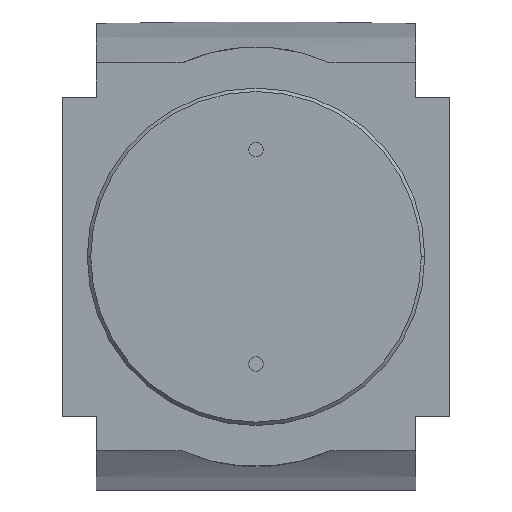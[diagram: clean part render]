
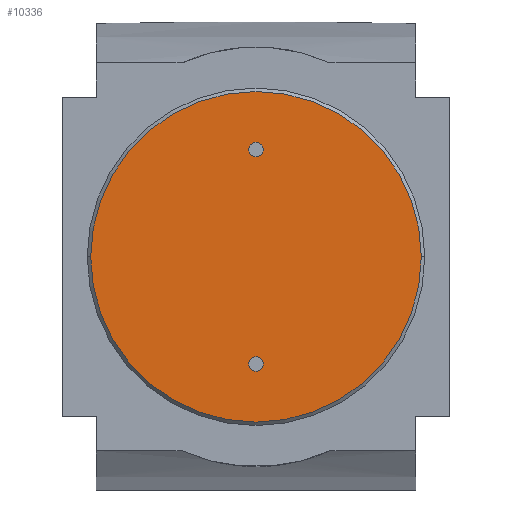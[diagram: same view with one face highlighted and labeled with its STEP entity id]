
A CAD part, front view. The second image highlights one B-rep face of the part: STEP entity #10336.
In plain terms, the highlighted planar face has unit normal (0, -1, 0).
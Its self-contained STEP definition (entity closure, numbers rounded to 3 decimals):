
#3662=CARTESIAN_POINT('',(0.,-54.,0.));
#3663=DIRECTION('',(0.,-1.,0.));
#3664=DIRECTION('',(-1.,0.,0.));
#3665=AXIS2_PLACEMENT_3D('',#3662,#3663,#3664);
#3670=CARTESIAN_POINT('',(0.,-54.,0.));
#3671=DIRECTION('',(0.,1.,0.));
#3672=DIRECTION('',(-1.,0.,0.));
#3673=AXIS2_PLACEMENT_3D('',#3670,#3671,#3672);
#3678=CARTESIAN_POINT('',(0.,-54.,23.5));
#3679=DIRECTION('',(0.,-1.,0.));
#3680=DIRECTION('',(0.,0.,-1.));
#3681=AXIS2_PLACEMENT_3D('',#3678,#3679,#3680);
#3686=CARTESIAN_POINT('',(0.,-54.,23.5));
#3687=DIRECTION('',(0.,-1.,0.));
#3688=DIRECTION('',(0.,0.,1.));
#3689=AXIS2_PLACEMENT_3D('',#3686,#3687,#3688);
#3694=CARTESIAN_POINT('',(0.,-54.,-23.5));
#3695=DIRECTION('',(0.,-1.,0.));
#3696=DIRECTION('',(0.,0.,-1.));
#3697=AXIS2_PLACEMENT_3D('',#3694,#3695,#3696);
#3702=CARTESIAN_POINT('',(0.,-54.,-23.5));
#3703=DIRECTION('',(0.,-1.,0.));
#3704=DIRECTION('',(0.,0.,1.));
#3705=AXIS2_PLACEMENT_3D('',#3702,#3703,#3704);
#5329=CARTESIAN_POINT('',(0.,-54.,21.9));
#5330=CARTESIAN_POINT('',(0.,-54.,25.1));
#5331=VERTEX_POINT('',#5329);
#5332=VERTEX_POINT('',#5330);
#5333=CARTESIAN_POINT('',(0.,-54.,-25.1));
#5334=CARTESIAN_POINT('',(0.,-54.,-21.9));
#5335=VERTEX_POINT('',#5333);
#5336=VERTEX_POINT('',#5334);
#5481=CARTESIAN_POINT('',(-36.25,-54.,0.));
#5482=VERTEX_POINT('',#5481);
#5483=CARTESIAN_POINT('',(36.25,-54.,0.));
#5484=VERTEX_POINT('',#5483);
#10315=CARTESIAN_POINT('',(0.,-54.,0.));
#10316=DIRECTION('',(0.,1.,0.));
#10317=DIRECTION('',(1.,0.,0.));
#10318=AXIS2_PLACEMENT_3D('',#10315,#10316,#10317);
#10319=PLANE('1320',#10318);
#10320=ORIENTED_EDGE('8141',*,*,#10294,.F.);
#10321=ORIENTED_EDGE('8131',*,*,#10310,.T.);
#10322=EDGE_LOOP('1320',(#10320,#10321));
#10323=FACE_OUTER_BOUND('1320',#10322,.F.);
#10325=ORIENTED_EDGE('4079',*,*,#10324,.T.);
#10327=ORIENTED_EDGE('4080',*,*,#10326,.T.);
#10328=EDGE_LOOP('1320',(#10325,#10327));
#10329=FACE_BOUND('1320',#10328,.F.);
#10331=ORIENTED_EDGE('4081',*,*,#10330,.T.);
#10333=ORIENTED_EDGE('4082',*,*,#10332,.T.);
#10334=EDGE_LOOP('1320',(#10331,#10333));
#10335=FACE_BOUND('1320',#10334,.F.);
#10336=ADVANCED_FACE('1320',(#10323,#10329,#10335),#10319,.F.);
#3666=CIRCLE('8141',#3665,36.25);
#3674=CIRCLE('8131',#3673,36.25);
#3682=CIRCLE('4079',#3681,1.6);
#3690=CIRCLE('4080',#3689,1.6);
#3698=CIRCLE('4081',#3697,1.6);
#3706=CIRCLE('4082',#3705,1.6);
#10294=EDGE_CURVE('8141',#5482,#5484,#3666,.T.);
#10310=EDGE_CURVE('8131',#5482,#5484,#3674,.T.);
#10324=EDGE_CURVE('4079',#5331,#5332,#3682,.T.);
#10326=EDGE_CURVE('4080',#5332,#5331,#3690,.T.);
#10330=EDGE_CURVE('4081',#5335,#5336,#3698,.T.);
#10332=EDGE_CURVE('4082',#5336,#5335,#3706,.T.);
